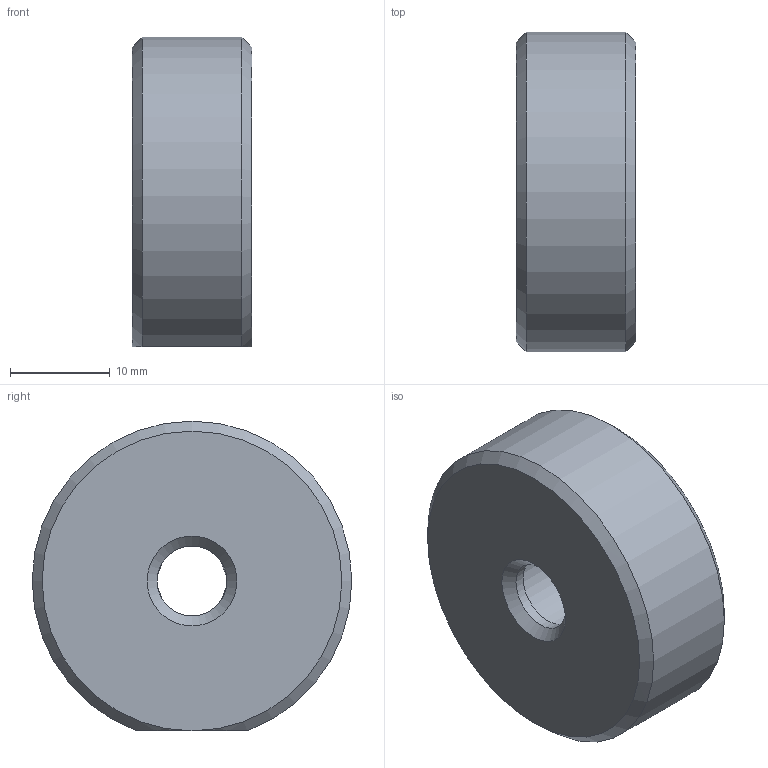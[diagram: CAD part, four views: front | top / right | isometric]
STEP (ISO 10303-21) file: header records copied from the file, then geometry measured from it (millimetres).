
FILE_DESCRIPTION((''),'2;1');
FILE_NAME('S:\1規格品図面ﾃﾞｰﾀ\OpticalHard\02_海外製品\2_Holders\LHF\LHF-10EE\LHF-10EE.stp','2007-09-12T11:27:56',('okegawa'),(''),'Autodesk Inventor 11','Autodesk Inventor 11','');
FILE_SCHEMA(('AUTOMOTIVE_DESIGN { 1 0 10303 214 1 1 1 1 }'));
Length unit declared in the file: millimetre
Products named in the file (1): LHF-10EE-C1-P01
Bounding box: 12 x 32 x 31 mm (x, y, z)
Volume: 8687.9 mm3; surface area: 3106.2 mm2
Topology: 1 solids, 1 shells, 43 faces, 103 edges, 66 vertices
Faces by surface type: plane 18, bspline 18, cone 4, cylinder 3
Full cylindrical faces by diameter (mm): 7 x1
Entity records: 1330 total; most frequent: CARTESIAN_POINT 432, DIRECTION 176, ORIENTED_EDGE 170, EDGE_CURVE 85, AXIS2_PLACEMENT_3D 69, EDGE_LOOP 60, VERTEX_POINT 59, CIRCLE 43
